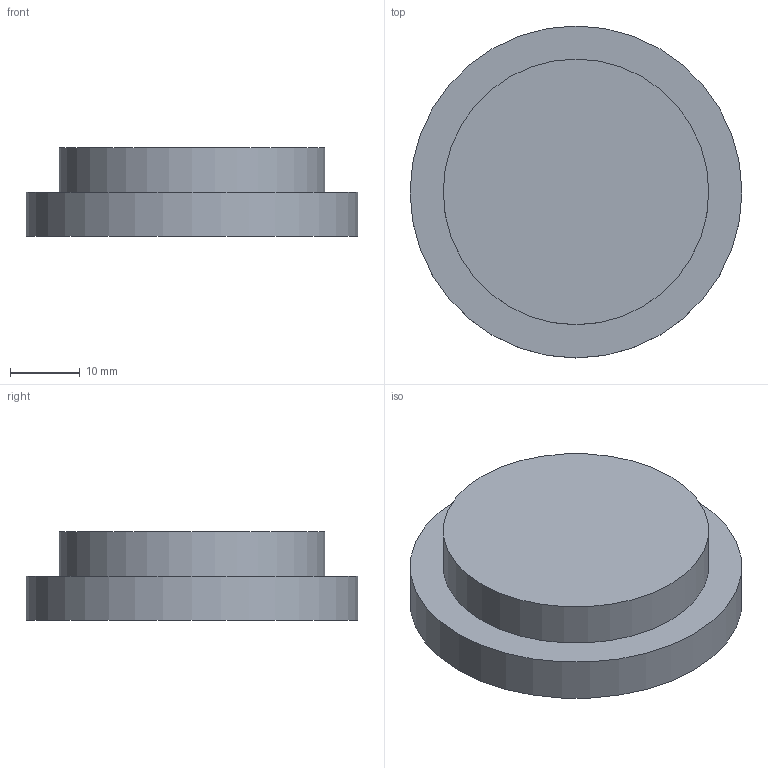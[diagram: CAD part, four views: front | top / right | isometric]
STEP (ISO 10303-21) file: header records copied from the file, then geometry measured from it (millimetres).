
FILE_DESCRIPTION(/* description */ (''),/* implementation_level */ '2;1');
FILE_NAME(/* name */ 'C:/Users/donbe/OneDrive/Documents/Cars/GMC Motorhome/tom-warner-bearing-puller/TomWarnerBearingPullerPuck v1.step',/* time_stamp */ '2021-08-12T17:59:01-04:00',/* author */ (''),/* organization */ (''),/* preprocessor_version */ 'ST-DEVELOPER v18.1',/* originating_system */ 'Autodesk Translation Framework v10.9.0.1377',/* authorisation */ '');
FILE_SCHEMA (('AUTOMOTIVE_DESIGN { 1 0 10303 214 3 1 1 }'));
Length unit declared in the file: inch
Products named in the file (1): TomWarnerBearingPullerPuck
Bounding box: 47.62 x 47.62 x 12.7 mm (x, y, z)
Volume: 18551.4 mm3; surface area: 5272.9 mm2
Topology: 1 solids, 1 shells, 5 faces, 6 edges, 4 vertices
Faces by surface type: plane 3, cylinder 2
Full cylindrical faces by diameter (mm): 38.1 x1, 47.625 x1
Entity records: 139 total; most frequent: DIRECTION 22, CARTESIAN_POINT 16, ORIENTED_EDGE 12, AXIS2_PLACEMENT_3D 10, EDGE_LOOP 6, EDGE_CURVE 6, FACE_OUTER_BOUND 5, ADVANCED_FACE 5
